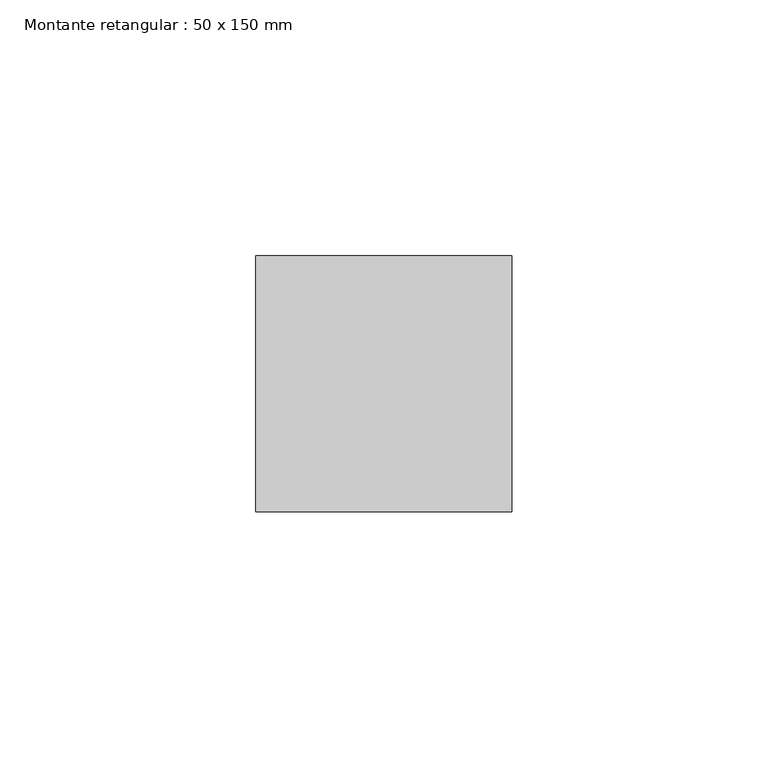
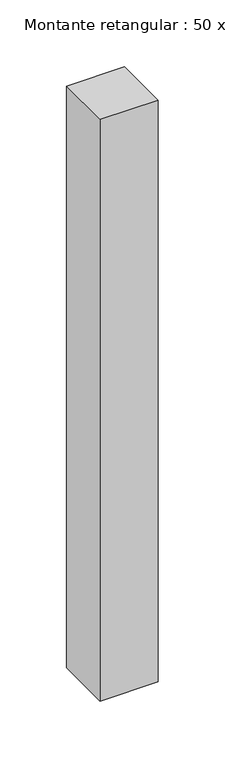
"""IFC4 building model written with IfcOpenShell, lengths in millimetres: member geometry, Montante retangular : 50 x 150 mm."""

from ifc_helpers import new_model, si_unit, frame, origin, place, context, project, spatial, polyline, outline, extrude, source, transform, mapped, element, save


def montante_retangular_50_x_150_mm_329dc702(model_context):
    return source(origin(), model_context, "Body", "SweptSolid", [
        extrude(outline(polyline([(0.0, 25.0), (0.0, -25.0), (-50.0, -25.0), (-50.0, 25.0), (0.0, 25.0)])), frame((0.0, 0.0, -530.0), z_axis=(0.0, 0.0, 1.0), x_axis=(1.0, 0.0, 0.0)), (0.0, 0.0, 1.0), 530.0),
    ])


if __name__ == "__main__":
    model = new_model("IFC4")
    model_context = context("Model", 3, world=origin())
    ifc_project = project(units=[si_unit("LENGTHUNIT", "METRE", prefix="MILLI")], contexts=[model_context])
    site = spatial("IfcSite", under=ifc_project)
    building = spatial("IfcBuilding", under=site)
    placement = place(None, origin())
    montante_retangular_50_x_150_mm_shape = montante_retangular_50_x_150_mm_329dc702(model_context)
    element("IfcMember", 1, ObjectType="Montante retangular : 50 x 150 mm", at=placement, inside=building, context=model_context, shape_type="MappedRepresentation", body=[
        mapped(montante_retangular_50_x_150_mm_shape, transform((0.0, 0.0, 0.0), x_axis=(1.0, 0.0, 0.0), y_axis=(0.0, 1.0, 0.0), z_axis=(0.0, 0.0, 1.0))),
    ])
    save(model, "model.ifc")
